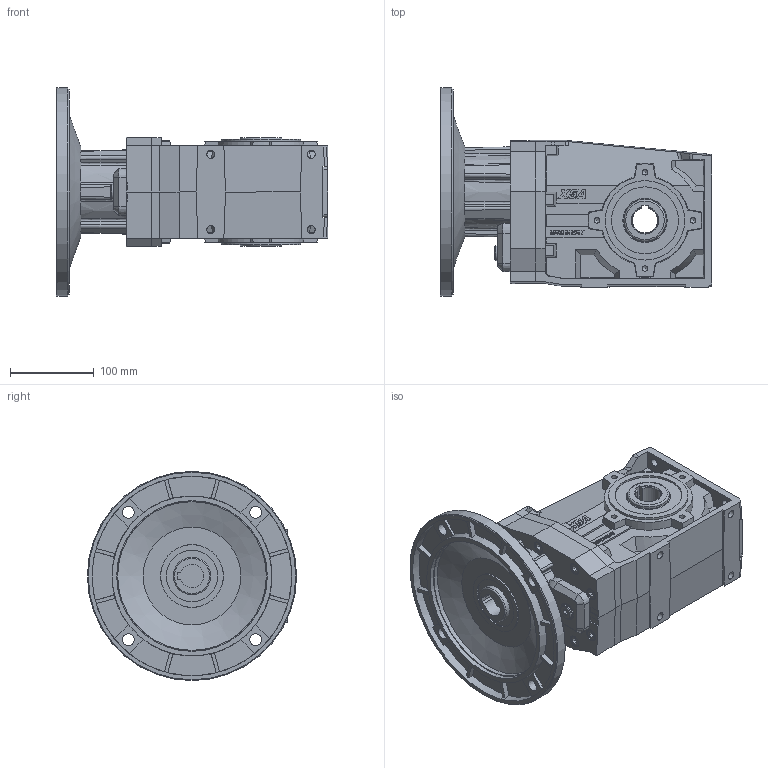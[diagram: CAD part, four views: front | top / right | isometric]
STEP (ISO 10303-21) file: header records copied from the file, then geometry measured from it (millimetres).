
FILE_DESCRIPTION( ( 'Unknown' ), '1' );
FILE_NAME( 'E:/services/configuratordownloads/customers/HYDROMEC/X/download/C419E5389C296D44FCA5BDF2C69BD2FC/STEP/C419E5389C296D44FCA5BDF2C69BD2FC.3d.stp', 'Unknown', ( 'Unknown' ), ( 'Unknown' ), 'PSStep 10.1', 'Unknown', ' ' );
FILE_SCHEMA( ( 'AUTOMOTIVE_DESIGN { 1 0 10303 214 1 1 1 1 }' ) );
Length unit declared in the file: millimetre
Products named in the file (1): X5A8800
Bounding box: 325 x 249.93 x 249.93 mm (x, y, z)
Volume: 4940712.1 mm3; surface area: 385688.9 mm2
Topology: 1 solids, 25 shells, 1055 faces, 2703 edges, 1779 vertices
Faces by surface type: plane 757, cone 137, cylinder 104, torus 21, bspline 20, extrusion 16
Full cylindrical faces by diameter (mm): 4.917 x8, 6 x8, 6.647 x16, 9.5 x8, 12 x8, 13 x8, 13.5 x1, 18 x1, 19 x1, 21 x1, 45 x2, 50.05 x2, 62 x2, 80 x2, 95 x2, 180 x1
Entity records: 40619 total; most frequent: CARTESIAN_POINT 8034, ORIENTED_EDGE 4786, DIRECTION 4745, EDGE_CURVE 2393, VERTEX_POINT 1684, VECTOR 1683, LINE 1667, AXIS2_PLACEMENT_3D 1531
